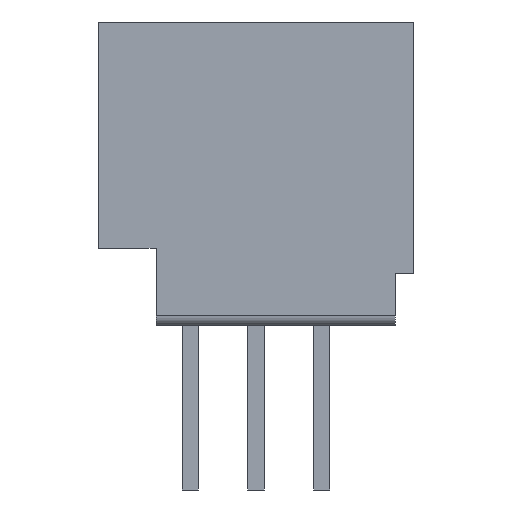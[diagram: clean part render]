
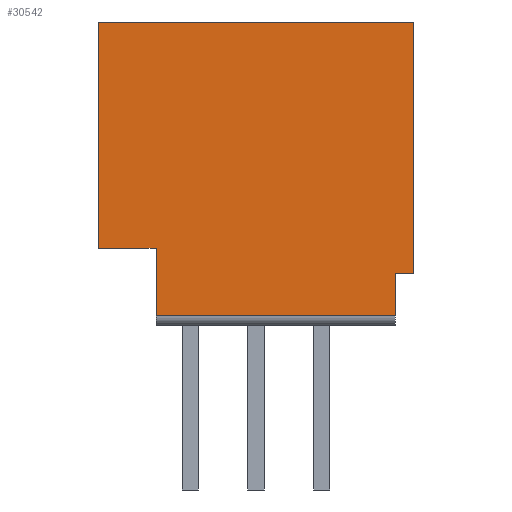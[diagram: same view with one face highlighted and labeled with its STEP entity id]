
A CAD part, left-side view. The second image highlights one B-rep face of the part: STEP entity #30542.
In plain terms, the highlighted planar face has unit normal (-1, 0, 0).
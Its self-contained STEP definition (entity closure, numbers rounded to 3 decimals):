
#2=DIRECTION('',(0.,-1.,0.));
#3=VECTOR('',#2,12.192);
#4=CARTESIAN_POINT('',(-98.425,6.096,0.));
#5=LINE('',#4,#3);
#114=DIRECTION('',(0.,1.,0.));
#115=VECTOR('',#114,9.246);
#116=CARTESIAN_POINT('',(-98.425,-5.385,-11.354));
#117=LINE('',#116,#115);
#118=DIRECTION('',(0.,-1.,0.));
#119=VECTOR('',#118,2.235);
#120=CARTESIAN_POINT('',(-98.425,6.096,-8.738));
#121=LINE('',#120,#119);
#122=DIRECTION('',(0.,0.,1.));
#123=VECTOR('',#122,8.738);
#124=CARTESIAN_POINT('',(-98.425,6.096,-8.738));
#125=LINE('',#124,#123);
#126=DIRECTION('',(0.,1.,0.));
#127=VECTOR('',#126,0.711);
#128=CARTESIAN_POINT('',(-98.425,-6.096,-9.703));
#129=LINE('',#128,#127);
#130=DIRECTION('',(0.,0.,-1.));
#131=VECTOR('',#130,1.651);
#132=CARTESIAN_POINT('',(-98.425,-5.385,-9.703));
#133=LINE('',#132,#131);
#666=DIRECTION('',(0.,0.,-1.));
#667=VECTOR('',#666,2.616);
#668=CARTESIAN_POINT('',(-98.425,3.861,-8.738));
#669=LINE('',#668,#667);
#5142=DIRECTION('',(0.,0.,1.));
#5143=VECTOR('',#5142,9.703);
#5144=CARTESIAN_POINT('',(-98.425,-6.096,-9.703));
#5145=LINE('',#5144,#5143);
#22914=CARTESIAN_POINT('',(-98.425,6.096,0.));
#22915=CARTESIAN_POINT('',(-98.425,-6.096,0.));
#22916=VERTEX_POINT('',#22914);
#22917=VERTEX_POINT('',#22915);
#22922=CARTESIAN_POINT('',(-98.425,3.861,-8.738));
#22924=VERTEX_POINT('',#22922);
#22926=CARTESIAN_POINT('',(-98.425,-5.385,-9.703));
#22928=VERTEX_POINT('',#22926);
#26082=CARTESIAN_POINT('',(-98.425,6.096,-8.738));
#26083=VERTEX_POINT('',#26082);
#26084=CARTESIAN_POINT('',(-98.425,-6.096,-9.703));
#26085=VERTEX_POINT('',#26084);
#26307=CARTESIAN_POINT('',(-98.425,3.861,-11.354));
#26309=VERTEX_POINT('',#26307);
#26310=CARTESIAN_POINT('',(-98.425,-5.385,-11.354));
#26311=VERTEX_POINT('',#26310);
#30520=CARTESIAN_POINT('',(-98.425,6.096,0.));
#30521=DIRECTION('',(-1.,0.,0.));
#30522=DIRECTION('',(0.,-1.,0.));
#30523=AXIS2_PLACEMENT_3D('',#30520,#30521,#30522);
#30524=PLANE('',#30523);
#30526=ORIENTED_EDGE('',*,*,#30525,.T.);
#30528=ORIENTED_EDGE('',*,*,#30527,.F.);
#30530=ORIENTED_EDGE('',*,*,#30529,.F.);
#30532=ORIENTED_EDGE('',*,*,#30531,.T.);
#30533=ORIENTED_EDGE('',*,*,#30455,.T.);
#30535=ORIENTED_EDGE('',*,*,#30534,.F.);
#30537=ORIENTED_EDGE('',*,*,#30536,.T.);
#30539=ORIENTED_EDGE('',*,*,#30538,.T.);
#30540=EDGE_LOOP('',(#30526,#30528,#30530,#30532,#30533,#30535,#30537,#30539));
#30541=FACE_OUTER_BOUND('',#30540,.F.);
#30455=EDGE_CURVE('',#22916,#22917,#5,.T.);
#30525=EDGE_CURVE('',#26311,#26309,#117,.T.);
#30527=EDGE_CURVE('',#22924,#26309,#669,.T.);
#30529=EDGE_CURVE('',#26083,#22924,#121,.T.);
#30531=EDGE_CURVE('',#26083,#22916,#125,.T.);
#30534=EDGE_CURVE('',#26085,#22917,#5145,.T.);
#30536=EDGE_CURVE('',#26085,#22928,#129,.T.);
#30538=EDGE_CURVE('',#22928,#26311,#133,.T.);
#30542=ADVANCED_FACE('',(#30541),#30524,.T.);
